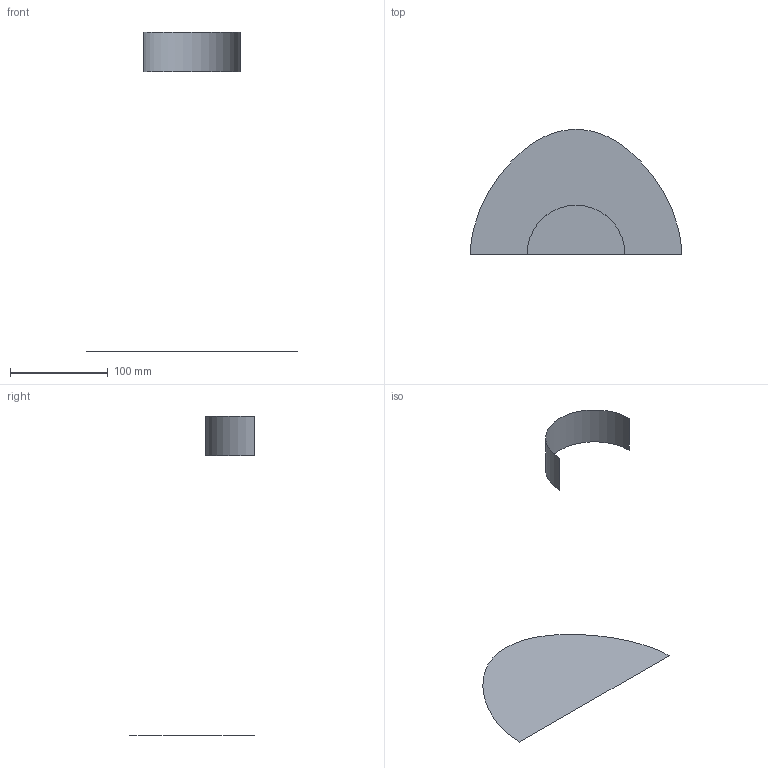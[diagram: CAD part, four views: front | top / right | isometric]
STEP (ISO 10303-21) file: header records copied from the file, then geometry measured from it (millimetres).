
FILE_DESCRIPTION(('CATIA V5 STEP Exchange'),'2;1');
FILE_NAME('C:\_Andres\UNIVERSIDAD\IQS\ASIGNATURAS\DAO\Controles\1617\c1\1original\Marinetto_Rohr_Ej00-base_v18.stp','2017-02-06T16:27:44+00:00',('none'),('none'),'CATIA Version 5-6 Release 2014 SP1 HF18','CATIA V5 STEP AP203','none');
FILE_SCHEMA(('CONFIG_CONTROL_DESIGN'));
Length unit declared in the file: millimetre
Products named in the file (1): Marinetto_Rohr_Ej00-base_v18
Bounding box: 216 x 128 x 326 mm (x, y, z)
Surface area: 27104.4 mm2 (no closed solid volume)
Topology: 0 solids, 2 shells, 2 faces, 16 edges, 26 vertices
Faces by surface type: cylinder 1, plane 1
Entity records: 230 total; most frequent: CARTESIAN_POINT 78, DIRECTION 16, COMPOSITE_CURVE_SEGMENT 9, TRIMMED_CURVE 9, AXIS2_PLACEMENT_3D 8, COMPOSITE_CURVE 7, ORIENTED_EDGE 7, EDGE_CURVE 7
